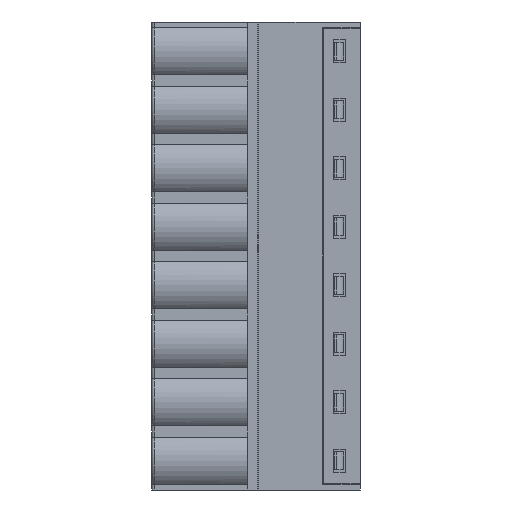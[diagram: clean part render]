
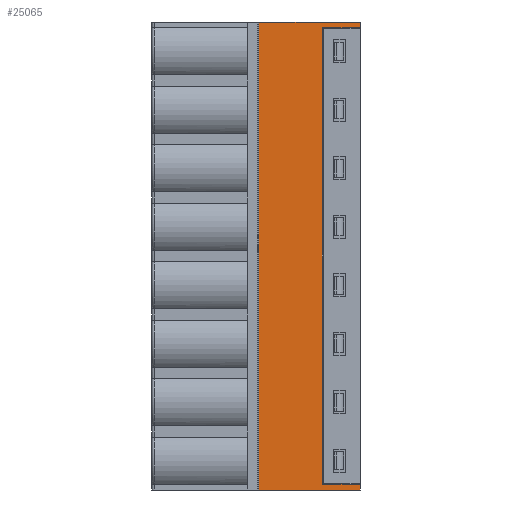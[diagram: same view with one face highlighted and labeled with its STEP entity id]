
A CAD part, left-side view. The second image highlights one B-rep face of the part: STEP entity #25065.
In plain terms, the highlighted planar face has unit normal (-1, 0, 0).
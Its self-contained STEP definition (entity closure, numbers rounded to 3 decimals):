
#219 = B_SPLINE_CURVE_WITH_KNOTS ( 'NONE', 3,
 ( #15306, #2603, #25841, #4797 ),
 .UNSPECIFIED., .F., .F.,
 ( 4, 4 ),
 ( 0., 1. ),
 .UNSPECIFIED. ) ;
#422 = EDGE_CURVE ( 'NONE', #10812, #13940, #15004, .T. ) ;
#545 = ORIENTED_EDGE ( 'NONE', *, *, #31730, .T. ) ;
#1298 = VERTEX_POINT ( 'NONE', #4163 ) ;
#1698 = LINE ( 'NONE', #6427, #4340 ) ;
#2013 = LINE ( 'NONE', #9298, #30958 ) ;
#2603 = CARTESIAN_POINT ( 'NONE',  ( -3.9, 1.933, 0.49 ) ) ;
#3465 = CARTESIAN_POINT ( 'NONE',  ( -3.9, 1.933, 40.15 ) ) ;
#3770 = VERTEX_POINT ( 'NONE', #5437 ) ;
#4115 = CARTESIAN_POINT ( 'NONE',  ( -3.9, 2.9, 0.49 ) ) ;
#4163 = CARTESIAN_POINT ( 'NONE',  ( -3.9, 8.8, 0. ) ) ;
#4340 = VECTOR ( 'NONE', #8984, 1000. ) ;
#4797 = CARTESIAN_POINT ( 'NONE',  ( -3.9, 0., 0.49 ) ) ;
#4966 = ORIENTED_EDGE ( 'NONE', *, *, #15668, .T. ) ;
#5150 = VECTOR ( 'NONE', #5215, 1000. ) ;
#5215 = DIRECTION ( 'NONE',  ( 0., -1., 0. ) ) ;
#5250 = FACE_OUTER_BOUND ( 'NONE', #24697, .T. ) ;
#5437 = CARTESIAN_POINT ( 'NONE',  ( -3.9, 0., 40.64 ) ) ;
#5666 = VERTEX_POINT ( 'NONE', #5849 ) ;
#5734 = VERTEX_POINT ( 'NONE', #13633 ) ;
#5849 = CARTESIAN_POINT ( 'NONE',  ( -3.9, 0., 0. ) ) ;
#5981 = EDGE_CURVE ( 'NONE', #14734, #1298, #31116, .T. ) ;
#6197 = ORIENTED_EDGE ( 'NONE', *, *, #6599, .F. ) ;
#6427 = CARTESIAN_POINT ( 'NONE',  ( -3.9, 3.3, 40.148 ) ) ;
#6599 = EDGE_CURVE ( 'NONE', #30784, #10812, #1698, .T. ) ;
#6723 = CARTESIAN_POINT ( 'NONE',  ( -3.9, 0., 0.49 ) ) ;
#6817 = CARTESIAN_POINT ( 'NONE',  ( -3.9, 3.3, 0.492 ) ) ;
#7580 = CARTESIAN_POINT ( 'NONE',  ( -3.9, 8.8, 0. ) ) ;
#7868 = CARTESIAN_POINT ( 'NONE',  ( -3.9, 8.8, 40.64 ) ) ;
#7960 = PLANE ( 'NONE',  #21627 ) ;
#8321 = ORIENTED_EDGE ( 'NONE', *, *, #422, .F. ) ;
#8984 = DIRECTION ( 'NONE',  ( 0., 0., -1. ) ) ;
#9298 = CARTESIAN_POINT ( 'NONE',  ( -3.9, 0., 0.49 ) ) ;
#9858 = ORIENTED_EDGE ( 'NONE', *, *, #14235, .F. ) ;
#10496 = DIRECTION ( 'NONE',  ( 0., 0., 1. ) ) ;
#10692 = VERTEX_POINT ( 'NONE', #6723 ) ;
#10812 = VERTEX_POINT ( 'NONE', #19217 ) ;
#12000 = DIRECTION ( 'NONE',  ( 0., 0., -1. ) ) ;
#12385 = CARTESIAN_POINT ( 'NONE',  ( -3.9, 3.167, 0.492 ) ) ;
#12456 = CARTESIAN_POINT ( 'NONE',  ( -3.9, 0., 40.64 ) ) ;
#13034 = CARTESIAN_POINT ( 'NONE',  ( -3.9, 8.9, 0. ) ) ;
#13581 = B_SPLINE_CURVE_WITH_KNOTS ( 'NONE', 3,
 ( #13945, #3465, #32134, #13782 ),
 .UNSPECIFIED., .F., .F.,
 ( 4, 4 ),
 ( 0., 1. ),
 .UNSPECIFIED. ) ;
#13633 = CARTESIAN_POINT ( 'NONE',  ( -3.9, 0., 40.15 ) ) ;
#13782 = CARTESIAN_POINT ( 'NONE',  ( -3.9, 0., 40.15 ) ) ;
#13940 = VERTEX_POINT ( 'NONE', #18263 ) ;
#13945 = CARTESIAN_POINT ( 'NONE',  ( -3.9, 2.9, 40.15 ) ) ;
#14235 = EDGE_CURVE ( 'NONE', #3770, #5734, #14849, .T. ) ;
#14734 = VERTEX_POINT ( 'NONE', #20346 ) ;
#14755 = LINE ( 'NONE', #17287, #19630 ) ;
#14849 = LINE ( 'NONE', #12456, #23769 ) ;
#14948 = EDGE_CURVE ( 'NONE', #10692, #5666, #2013, .T. ) ;
#15004 = B_SPLINE_CURVE_WITH_KNOTS ( 'NONE', 3,
 ( #6817, #12385, #19700, #4115 ),
 .UNSPECIFIED., .F., .F.,
 ( 4, 4 ),
 ( 0., 1. ),
 .UNSPECIFIED. ) ;
#15231 = CARTESIAN_POINT ( 'NONE',  ( -3.9, 2.9, 40.15 ) ) ;
#15306 = CARTESIAN_POINT ( 'NONE',  ( -3.9, 2.9, 0.49 ) ) ;
#15668 = EDGE_CURVE ( 'NONE', #30784, #20963, #26741, .T. ) ;
#16162 = CARTESIAN_POINT ( 'NONE',  ( -3.9, 3.167, 40.148 ) ) ;
#17287 = CARTESIAN_POINT ( 'NONE',  ( -3.9, 8.8, 40.64 ) ) ;
#17824 = VECTOR ( 'NONE', #30944, 1000. ) ;
#18263 = CARTESIAN_POINT ( 'NONE',  ( -3.9, 2.9, 0.49 ) ) ;
#18328 = EDGE_CURVE ( 'NONE', #14734, #3770, #14755, .T. ) ;
#18384 = CARTESIAN_POINT ( 'NONE',  ( -3.9, 2.9, 40.15 ) ) ;
#18776 = EDGE_CURVE ( 'NONE', #20963, #5734, #13581, .T. ) ;
#18874 = CARTESIAN_POINT ( 'NONE',  ( -3.9, 3.3, 40.148 ) ) ;
#19217 = CARTESIAN_POINT ( 'NONE',  ( -3.9, 3.3, 0.492 ) ) ;
#19630 = VECTOR ( 'NONE', #25283, 1000. ) ;
#19700 = CARTESIAN_POINT ( 'NONE',  ( -3.9, 3.033, 0.491 ) ) ;
#20113 = EDGE_CURVE ( 'NONE', #13940, #10692, #219, .T. ) ;
#20346 = CARTESIAN_POINT ( 'NONE',  ( -3.9, 8.8, 40.64 ) ) ;
#20963 = VERTEX_POINT ( 'NONE', #15231 ) ;
#21561 = ORIENTED_EDGE ( 'NONE', *, *, #18776, .T. ) ;
#21627 = AXIS2_PLACEMENT_3D ( 'NONE', #13034, #23398, #10496 ) ;
#22597 = ORIENTED_EDGE ( 'NONE', *, *, #14948, .F. ) ;
#22846 = LINE ( 'NONE', #7580, #5150 ) ;
#23398 = DIRECTION ( 'NONE',  ( -1., 0., 0. ) ) ;
#23769 = VECTOR ( 'NONE', #24863, 1000. ) ;
#23964 = ORIENTED_EDGE ( 'NONE', *, *, #20113, .F. ) ;
#24485 = CARTESIAN_POINT ( 'NONE',  ( -3.9, 3.3, 40.148 ) ) ;
#24697 = EDGE_LOOP ( 'NONE', ( #545, #22597, #23964, #8321, #6197, #4966, #21561, #9858, #32821, #27644 ) ) ;
#24863 = DIRECTION ( 'NONE',  ( 0., 0., -1. ) ) ;
#25065 = ADVANCED_FACE ( 'NONE', ( #5250 ), #7960, .T. ) ;
#25283 = DIRECTION ( 'NONE',  ( 0., -1., 0. ) ) ;
#25841 = CARTESIAN_POINT ( 'NONE',  ( -3.9, 0.967, 0.49 ) ) ;
#26741 = B_SPLINE_CURVE_WITH_KNOTS ( 'NONE', 3,
 ( #18874, #16162, #28916, #18384 ),
 .UNSPECIFIED., .F., .F.,
 ( 4, 4 ),
 ( 0., 1. ),
 .UNSPECIFIED. ) ;
#27644 = ORIENTED_EDGE ( 'NONE', *, *, #5981, .T. ) ;
#28916 = CARTESIAN_POINT ( 'NONE',  ( -3.9, 3.033, 40.149 ) ) ;
#30784 = VERTEX_POINT ( 'NONE', #24485 ) ;
#30944 = DIRECTION ( 'NONE',  ( 0., 0., -1. ) ) ;
#30958 = VECTOR ( 'NONE', #12000, 1000. ) ;
#31116 = LINE ( 'NONE', #7868, #17824 ) ;
#31730 = EDGE_CURVE ( 'NONE', #1298, #5666, #22846, .T. ) ;
#32134 = CARTESIAN_POINT ( 'NONE',  ( -3.9, 0.967, 40.15 ) ) ;
#32821 = ORIENTED_EDGE ( 'NONE', *, *, #18328, .F. ) ;
